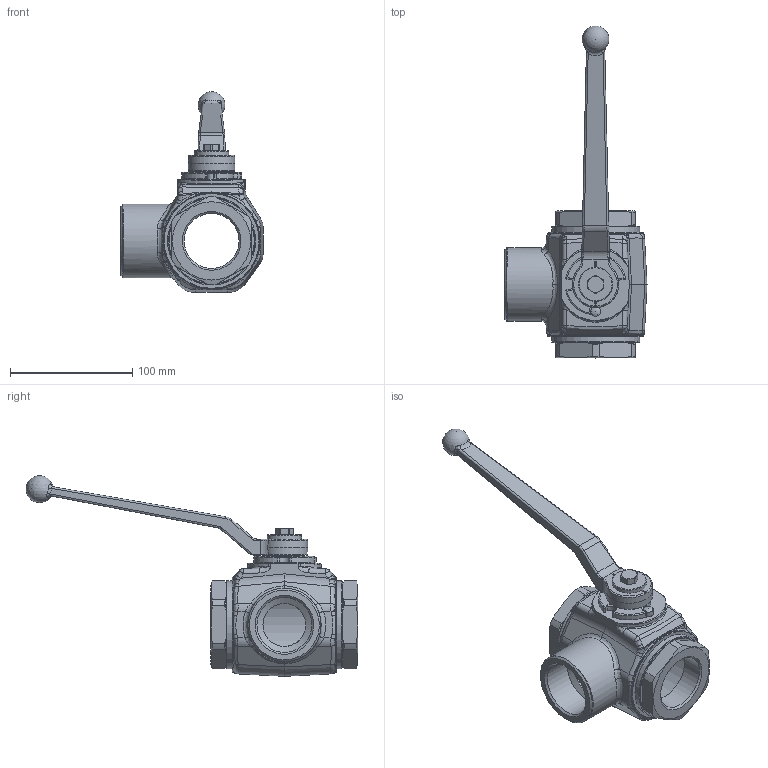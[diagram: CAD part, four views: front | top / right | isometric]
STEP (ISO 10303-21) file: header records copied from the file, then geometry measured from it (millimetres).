
FILE_DESCRIPTION( ( 'Unknown' ), '1' );
FILE_NAME( 'H:/PISTER/3D-MODELLE/SK3 stp/SK3 DN40 G3_2.stp', 'Unknown', ( 'Unknown' ), ( 'Unknown' ), 'PSStep 14.0', 'Unknown', ' ' );
FILE_SCHEMA( ( 'AUTOMOTIVE_DESIGN { 1 0 10303 214 1 1 1 1 }' ) );
Length unit declared in the file: millimetre
Products named in the file (10): Assem1; 03-040-006-oa3; 04-040-090-oa4; 56-032-048-oa11; 09-17-001; Griff_SW17_; 58-0440-003; 58-0933-163; 58-28740-01; 01-040-096-oa12
Assembly tree (9 placements, depth 2):
  Assem1
    03-040-006-oa3
    04-040-090-oa4
    56-032-048-oa11
    09-17-001
    Griff_SW17_
    58-0440-003
    58-0933-163
    58-28740-01
    01-040-096-oa12
Bounding box: 116 x 270.92 x 163.9 mm (x, y, z)
Volume: 277693.7 mm3; surface area: 109777.6 mm2
Topology: 9 solids, 9 shells, 499 faces, 1252 edges, 760 vertices
Faces by surface type: plane 137, cylinder 134, bspline 128, torus 47, cone 42, sphere 11
Full cylindrical faces by diameter (mm): 6.8 x1, 7.98 x1, 8 x1, 9.2 x1, 24 x2, 28 x1, 32 x1, 35 x1, 44.845 x3, 52 x1, 60 x1, 65.3 x2, 65.35 x2, 72 x2, 78.279 x1
Entity records: 26747 total; most frequent: CARTESIAN_POINT 11943, ORIENTED_EDGE 2308, DIRECTION 2068, EDGE_CURVE 1154, AXIS2_PLACEMENT_3D 869, VERTEX_POINT 731, EDGE_LOOP 574, FACE_OUTER_BOUND 533
